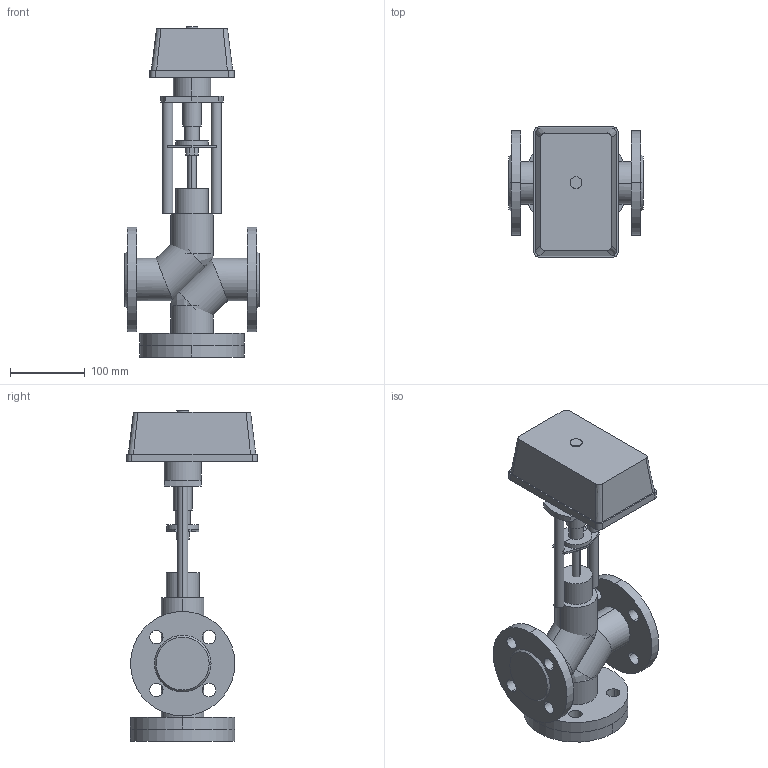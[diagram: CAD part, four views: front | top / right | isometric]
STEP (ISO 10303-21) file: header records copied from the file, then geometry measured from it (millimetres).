
FILE_DESCRIPTION(/* description */ (''),/* implementation_level */ '2;1');
FILE_NAME(/* name */ 'ТРК DN32 PN 1.6 МПа МИЭП-1 1600',/* time_stamp */ '2026-07-14T23:28:34+03:00',/* author */ (''),/* organization */ (''),/* preprocessor_version */ 'ST-DEVELOPER v20',/* originating_system */ '',/* authorisation */ '');
FILE_SCHEMA (('AP242_MANAGED_MODEL_BASED_3D_ENGINEERING_MIM_LF { 1 0 10303 442 1 1 4 }'));
Length unit declared in the file: millimetre
Products named in the file (14): TopLevelAssembly; Выдавливание; Модификатор; Модификатор_1; Выдавливание_
1; Выдавливание_
2; Вращение; Выдавливание_
3; Выдавливание_
4; 1600; Переход; Объемная геометрия 
присоединена; Полый Выдавливание; Объемная геометрия 
присоединена_1
Assembly tree (13 placements, depth 2):
  TopLevelAssembly
    Выдавливание
    Модификатор
    Модификатор_1
    Выдавливание_
1
    Выдавливание_
2
    Вращение
    Выдавливание_
3
    Выдавливание_
4
    1600
    Переход
    Объемная геометрия 
присоединена
    Полый Выдавливание
    Объемная геометрия 
присоединена_1
Bounding box: 180 x 175 x 443 mm (x, y, z)
Volume: 3088298.6 mm3; surface area: 420183.8 mm2
Topology: 23 solids, 23 shells, 171 faces, 357 edges, 226 vertices
Faces by surface type: cylinder 80, plane 79, bspline 8, cone 4
Entity records: 5224 total; most frequent: CARTESIAN_POINT 961, DIRECTION 909, ORIENTED_EDGE 698, AXIS2_PLACEMENT_3D 370, EDGE_CURVE 349, VERTEX_POINT 226, EDGE_LOOP 201, CIRCLE 172
